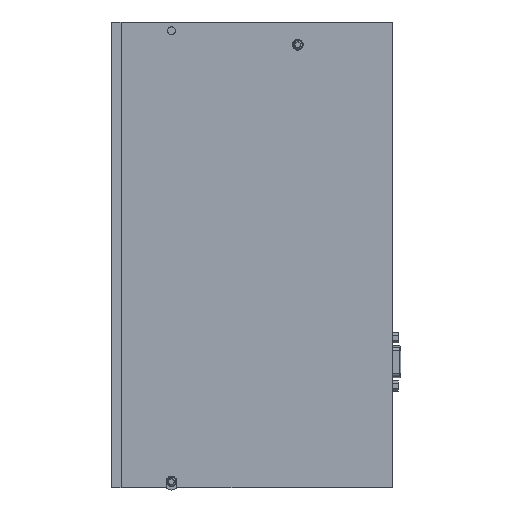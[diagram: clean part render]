
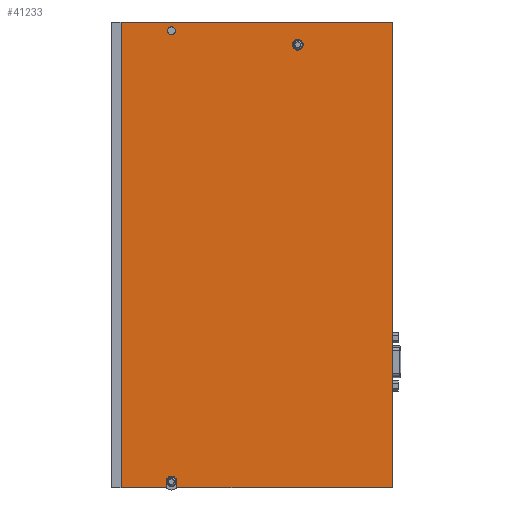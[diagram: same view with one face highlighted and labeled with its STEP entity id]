
A CAD part, front view. The second image highlights one B-rep face of the part: STEP entity #41233.
In plain terms, the highlighted planar face has unit normal (0, -1, 0).
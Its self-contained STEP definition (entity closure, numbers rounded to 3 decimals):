
#6949=DIRECTION('',(1.,0.,0.));
#6950=VECTOR('',#6949,139.5);
#6951=CARTESIAN_POINT('',(5.,0.,120.));
#6952=LINE('',#6951,#6950);
#6989=DIRECTION('',(1.,0.,0.));
#6990=VECTOR('',#6989,110.75);
#6991=CARTESIAN_POINT('',(33.75,0.,-120.));
#6992=LINE('',#6991,#6990);
#7057=DIRECTION('',(1.,0.,0.));
#7058=VECTOR('',#7057,23.25);
#7059=CARTESIAN_POINT('',(5.,0.,-120.));
#7060=LINE('',#7059,#7058);
#8739=CARTESIAN_POINT('',(144.5,0.,119.5));
#8740=DIRECTION('',(0.,-1.,0.));
#8741=DIRECTION('',(1.,0.,0.));
#8742=AXIS2_PLACEMENT_3D('',#8739,#8740,#8741);
#8744=CARTESIAN_POINT('',(144.5,0.,-119.5));
#8745=DIRECTION('',(0.,-1.,0.));
#8746=DIRECTION('',(0.,0.,-1.));
#8747=AXIS2_PLACEMENT_3D('',#8744,#8745,#8746);
#8749=DIRECTION('',(0.,0.,1.));
#8750=VECTOR('',#8749,3.3);
#8751=CARTESIAN_POINT('',(33.75,0.,-120.));
#8752=LINE('',#8751,#8750);
#8753=CARTESIAN_POINT('',(31.,0.,-116.7));
#8754=DIRECTION('',(0.,1.,0.));
#8755=DIRECTION('',(-1.,0.,0.));
#8756=AXIS2_PLACEMENT_3D('',#8753,#8754,#8755);
#8758=DIRECTION('',(0.,0.,1.));
#8759=VECTOR('',#8758,3.3);
#8760=CARTESIAN_POINT('',(28.25,0.,-120.));
#8761=LINE('',#8760,#8759);
#8762=DIRECTION('',(0.,0.,1.));
#8763=VECTOR('',#8762,240.);
#8764=CARTESIAN_POINT('',(5.,0.,-120.));
#8765=LINE('',#8764,#8763);
#8766=CARTESIAN_POINT('',(96.125,0.,108.5));
#8767=DIRECTION('',(0.,1.,0.));
#8768=DIRECTION('',(0.,0.,-1.));
#8769=AXIS2_PLACEMENT_3D('',#8766,#8767,#8768);
#8771=CARTESIAN_POINT('',(96.125,0.,108.5));
#8772=DIRECTION('',(0.,1.,0.));
#8773=DIRECTION('',(0.,0.,1.));
#8774=AXIS2_PLACEMENT_3D('',#8771,#8772,#8773);
#8776=CARTESIAN_POINT('',(31.,0.,115.75));
#8777=DIRECTION('',(0.,1.,0.));
#8778=DIRECTION('',(1.,0.,0.));
#8779=AXIS2_PLACEMENT_3D('',#8776,#8777,#8778);
#8781=CARTESIAN_POINT('',(31.,0.,115.75));
#8782=DIRECTION('',(0.,1.,0.));
#8783=DIRECTION('',(-1.,0.,0.));
#8784=AXIS2_PLACEMENT_3D('',#8781,#8782,#8783);
#8798=DIRECTION('',(0.,0.,1.));
#8799=VECTOR('',#8798,239.);
#8800=CARTESIAN_POINT('',(145.,0.,-119.5));
#8801=LINE('',#8800,#8799);
#22278=CARTESIAN_POINT('',(33.75,0.,-120.));
#22279=CARTESIAN_POINT('',(33.75,0.,-116.7));
#22280=VERTEX_POINT('',#22278);
#22281=VERTEX_POINT('',#22279);
#22282=CARTESIAN_POINT('',(28.25,0.,-120.));
#22283=CARTESIAN_POINT('',(28.25,0.,-116.7));
#22284=VERTEX_POINT('',#22282);
#22285=VERTEX_POINT('',#22283);
#22286=CARTESIAN_POINT('',(5.,0.,-120.));
#22287=VERTEX_POINT('',#22286);
#22292=CARTESIAN_POINT('',(145.,0.,119.5));
#22293=VERTEX_POINT('',#22292);
#22294=CARTESIAN_POINT('',(144.5,0.,120.));
#22295=VERTEX_POINT('',#22294);
#22296=CARTESIAN_POINT('',(144.5,0.,-120.));
#22297=CARTESIAN_POINT('',(145.,0.,-119.5));
#22298=VERTEX_POINT('',#22296);
#22299=VERTEX_POINT('',#22297);
#22304=CARTESIAN_POINT('',(96.125,0.,105.75));
#22305=CARTESIAN_POINT('',(96.125,0.,111.25));
#22306=VERTEX_POINT('',#22304);
#22307=VERTEX_POINT('',#22305);
#22312=CARTESIAN_POINT('',(5.,0.,120.));
#22313=VERTEX_POINT('',#22312);
#26954=CARTESIAN_POINT('',(33.,0.,115.75));
#26955=CARTESIAN_POINT('',(29.,0.,115.75));
#26956=VERTEX_POINT('',#26954);
#26957=VERTEX_POINT('',#26955);
#41200=CARTESIAN_POINT('',(5.,0.,-120.));
#41201=DIRECTION('',(0.,-1.,0.));
#41202=DIRECTION('',(1.,0.,0.));
#41203=AXIS2_PLACEMENT_3D('',#41200,#41201,#41202);
#41204=PLANE('',#41203);
#41206=ORIENTED_EDGE('',*,*,#41205,.F.);
#41208=ORIENTED_EDGE('',*,*,#41207,.F.);
#41210=ORIENTED_EDGE('',*,*,#41209,.F.);
#41211=ORIENTED_EDGE('',*,*,#39144,.F.);
#41212=ORIENTED_EDGE('',*,*,#39237,.T.);
#41214=ORIENTED_EDGE('',*,*,#41213,.F.);
#41216=ORIENTED_EDGE('',*,*,#41215,.F.);
#41217=ORIENTED_EDGE('',*,*,#39181,.F.);
#41218=ORIENTED_EDGE('',*,*,#39104,.T.);
#41219=ORIENTED_EDGE('',*,*,#39053,.T.);
#41220=EDGE_LOOP('',(#41206,#41208,#41210,#41211,#41212,#41214,#41216,#41217,
#41218,#41219));
#41221=FACE_OUTER_BOUND('',#41220,.F.);
#41223=ORIENTED_EDGE('',*,*,#41222,.F.);
#41225=ORIENTED_EDGE('',*,*,#41224,.F.);
#41226=EDGE_LOOP('',(#41223,#41225));
#41227=FACE_BOUND('',#41226,.F.);
#41229=ORIENTED_EDGE('',*,*,#41228,.F.);
#41230=ORIENTED_EDGE('',*,*,#41160,.F.);
#41231=EDGE_LOOP('',(#41229,#41230));
#41232=FACE_BOUND('',#41231,.F.);
#41233=ADVANCED_FACE('',(#41221,#41227,#41232),#41204,.T.);
#8743=CIRCLE('',#8742,0.5);
#8748=CIRCLE('',#8747,0.5);
#8757=CIRCLE('',#8756,2.75);
#8770=CIRCLE('',#8769,2.75);
#8775=CIRCLE('',#8774,2.75);
#8780=CIRCLE('',#8779,2.);
#8785=CIRCLE('',#8784,2.);
#39053=EDGE_CURVE('',#22313,#22295,#6952,.T.);
#39104=EDGE_CURVE('',#22287,#22313,#8765,.T.);
#39144=EDGE_CURVE('',#22280,#22298,#6992,.T.);
#39181=EDGE_CURVE('',#22287,#22284,#7060,.T.);
#39237=EDGE_CURVE('',#22280,#22281,#8752,.T.);
#41160=EDGE_CURVE('',#26957,#26956,#8785,.T.);
#41205=EDGE_CURVE('',#22293,#22295,#8743,.T.);
#41207=EDGE_CURVE('',#22299,#22293,#8801,.T.);
#41209=EDGE_CURVE('',#22298,#22299,#8748,.T.);
#41213=EDGE_CURVE('',#22285,#22281,#8757,.T.);
#41215=EDGE_CURVE('',#22284,#22285,#8761,.T.);
#41222=EDGE_CURVE('',#22306,#22307,#8770,.T.);
#41224=EDGE_CURVE('',#22307,#22306,#8775,.T.);
#41228=EDGE_CURVE('',#26956,#26957,#8780,.T.);
